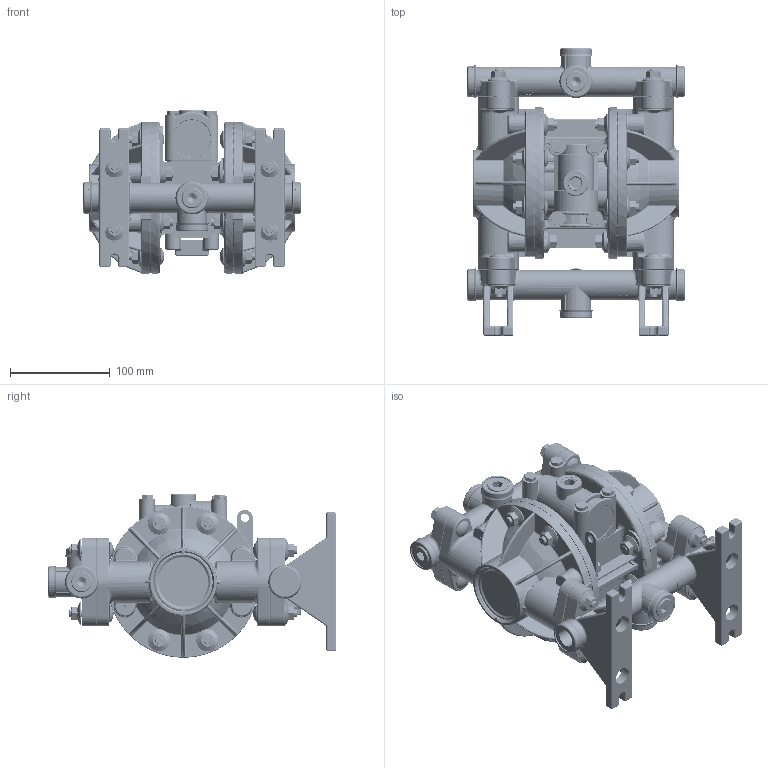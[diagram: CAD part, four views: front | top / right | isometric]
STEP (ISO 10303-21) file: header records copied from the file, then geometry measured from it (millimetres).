
FILE_DESCRIPTION((''),'2;1');
FILE_NAME('20094397_ASM_1_1_SW0001','2021-09-24T14:33:06',('irgbqd'),(''),'CREO PARAMETRIC BY PTC INC, 2020342','CREO PARAMETRIC BY PTC INC, 2020342','');
FILE_SCHEMA(('CONFIG_CONTROL_DESIGN'));
Products named in the file (1): 20094397_ASM_1_1_SW0001
Bounding box: 218.31 x 289.2 x 164.26 mm (x, y, z)
Volume: 2815237.4 mm3; surface area: 402968 mm2
Topology: 1 solids, 1 shells, 4964 faces, 13632 edges, 8629 vertices
Faces by surface type: plane 1582, cylinder 1227, bspline 842, torus 632, cone 464, sphere 217
Entity records: 218368 total; most frequent: CARTESIAN_POINT 100456, ORIENTED_EDGE 26864, DIRECTION 22105, EDGE_CURVE 13432, VERTEX_POINT 8613, AXIS2_PLACEMENT_3D 8334, VECTOR 5437, LINE 5437
